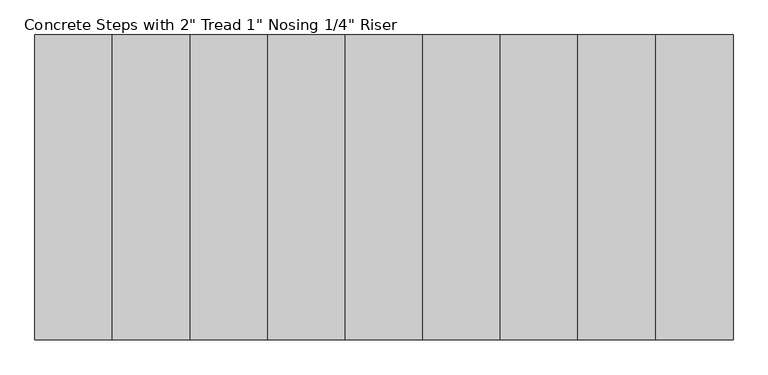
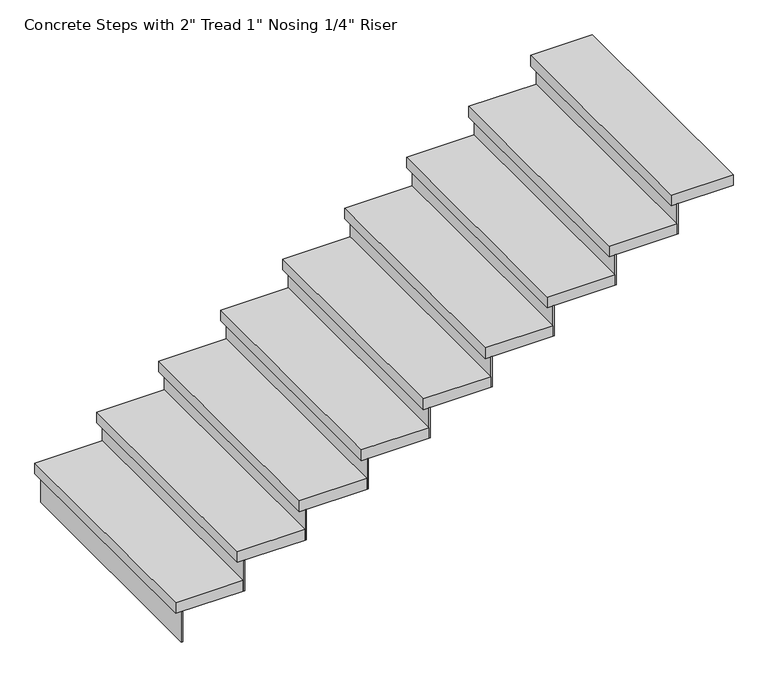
"""IFC4 building model written with IfcOpenShell, lengths in millimetres: stair flight geometry."""

from ifc_helpers import new_model, si_unit, frame, origin, place, context, project, spatial, polyline, outline, extrude, source, transform, mapped, element, save


def stair_flight_abbb2ed0(model_context):
    return source(origin(), model_context, "Body", "SweptSolid", [
        extrude(outline(polyline([(-9956.5313244, 8376.9937722), (-9962.8813244, 8376.9937722), (-9962.8813244, 9475.3913722), (-9956.5313244, 9475.3913722), (-9956.5313244, 8376.9937722)])), frame((0.0, 0.0, 1690.9142857), z_axis=(0.0, 0.0, 1.0), x_axis=(1.0, 0.0, 0.0)), (0.0, 0.0, 1.0), 145.1428571),
        extrude(outline(polyline([(-9683.4813244, 9475.3913722), (-9683.4813244, 8376.9937722), (-9988.2813244, 8376.9937722), (-9988.2813244, 9475.3913722), (-9683.4813244, 9475.3913722)])), frame((0.0, 0.0, 1836.0571429), z_axis=(0.0, 0.0, 1.0), x_axis=(1.0, 0.0, 0.0)), (0.0, 0.0, 1.0), 50.8),
        extrude(outline(polyline([(-9677.1313244, 8376.9937722), (-9683.4813244, 8376.9937722), (-9683.4813244, 9475.3913722), (-9677.1313244, 9475.3913722), (-9677.1313244, 8376.9937722)])), frame((0.0, 0.0, 1836.0571429), z_axis=(0.0, 0.0, 1.0), x_axis=(1.0, 0.0, 0.0)), (0.0, 0.0, 1.0), 145.1428571),
        extrude(outline(polyline([(-9404.0813244, 9475.3913722), (-9404.0813244, 8376.9937722), (-9708.8813244, 8376.9937722), (-9708.8813244, 9475.3913722), (-9404.0813244, 9475.3913722)])), frame((0.0, 0.0, 1981.2), z_axis=(0.0, 0.0, 1.0), x_axis=(1.0, 0.0, 0.0)), (0.0, 0.0, 1.0), 50.8),
        extrude(outline(polyline([(-9397.7313244, 8376.9937722), (-9404.0813244, 8376.9937722), (-9404.0813244, 9475.3913722), (-9397.7313244, 9475.3913722), (-9397.7313244, 8376.9937722)])), frame((0.0, 0.0, 1981.2), z_axis=(0.0, 0.0, 1.0), x_axis=(1.0, 0.0, 0.0)), (0.0, 0.0, 1.0), 145.1428571),
        extrude(outline(polyline([(-9124.6813244, 9475.3913722), (-9124.6813244, 8376.9937722), (-9429.4813244, 8376.9937722), (-9429.4813244, 9475.3913722), (-9124.6813244, 9475.3913722)])), frame((0.0, 0.0, 2126.3428571), z_axis=(0.0, 0.0, 1.0), x_axis=(1.0, 0.0, 0.0)), (0.0, 0.0, 1.0), 50.8),
        extrude(outline(polyline([(-9118.3313244, 8376.9937722), (-9124.6813244, 8376.9937722), (-9124.6813244, 9475.3913722), (-9118.3313244, 9475.3913722), (-9118.3313244, 8376.9937722)])), frame((0.0, 0.0, 2126.3428571), z_axis=(0.0, 0.0, 1.0), x_axis=(1.0, 0.0, 0.0)), (0.0, 0.0, 1.0), 145.1428571),
        extrude(outline(polyline([(-8845.2813244, 9475.3913722), (-8845.2813244, 8376.9937722), (-9150.0813244, 8376.9937722), (-9150.0813244, 9475.3913722), (-8845.2813244, 9475.3913722)])), frame((0.0, 0.0, 2271.4857143), z_axis=(0.0, 0.0, 1.0), x_axis=(1.0, 0.0, 0.0)), (0.0, 0.0, 1.0), 50.8),
        extrude(outline(polyline([(-8838.9313244, 8376.9937722), (-8845.2813244, 8376.9937722), (-8845.2813244, 9475.3913722), (-8838.9313244, 9475.3913722), (-8838.9313244, 8376.9937722)])), frame((0.0, 0.0, 2271.4857143), z_axis=(0.0, 0.0, 1.0), x_axis=(1.0, 0.0, 0.0)), (0.0, 0.0, 1.0), 145.1428571),
        extrude(outline(polyline([(-8565.8813244, 9475.3913722), (-8565.8813244, 8376.9937722), (-8870.6813244, 8376.9937722), (-8870.6813244, 9475.3913722), (-8565.8813244, 9475.3913722)])), frame((0.0, 0.0, 2416.6285714), z_axis=(0.0, 0.0, 1.0), x_axis=(1.0, 0.0, 0.0)), (0.0, 0.0, 1.0), 50.8),
        extrude(outline(polyline([(-8559.5313244, 8376.9937722), (-8565.8813244, 8376.9937722), (-8565.8813244, 9475.3913722), (-8559.5313244, 9475.3913722), (-8559.5313244, 8376.9937722)])), frame((0.0, 0.0, 2416.6285714), z_axis=(0.0, 0.0, 1.0), x_axis=(1.0, 0.0, 0.0)), (0.0, 0.0, 1.0), 145.1428571),
        extrude(outline(polyline([(-8286.4813244, 9475.3913722), (-8286.4813244, 8376.9937722), (-8591.2813244, 8376.9937722), (-8591.2813244, 9475.3913722), (-8286.4813244, 9475.3913722)])), frame((0.0, 0.0, 2561.7714286), z_axis=(0.0, 0.0, 1.0), x_axis=(1.0, 0.0, 0.0)), (0.0, 0.0, 1.0), 50.8),
        extrude(outline(polyline([(-8280.1313244, 8376.9937722), (-8286.4813244, 8376.9937722), (-8286.4813244, 9475.3913722), (-8280.1313244, 9475.3913722), (-8280.1313244, 8376.9937722)])), frame((0.0, 0.0, 2561.7714286), z_axis=(0.0, 0.0, 1.0), x_axis=(1.0, 0.0, 0.0)), (0.0, 0.0, 1.0), 145.1428571),
        extrude(outline(polyline([(-8007.0813244, 9475.3913722), (-8007.0813244, 8376.9937722), (-8311.8813244, 8376.9937722), (-8311.8813244, 9475.3913722), (-8007.0813244, 9475.3913722)])), frame((0.0, 0.0, 2706.9142857), z_axis=(0.0, 0.0, 1.0), x_axis=(1.0, 0.0, 0.0)), (0.0, 0.0, 1.0), 50.8),
        extrude(outline(polyline([(-8000.7313244, 8376.9937722), (-8007.0813244, 8376.9937722), (-8007.0813244, 9475.3913722), (-8000.7313244, 9475.3913722), (-8000.7313244, 8376.9937722)])), frame((0.0, 0.0, 2706.9142857), z_axis=(0.0, 0.0, 1.0), x_axis=(1.0, 0.0, 0.0)), (0.0, 0.0, 1.0), 145.1428571),
        extrude(outline(polyline([(-7727.6813244, 9475.3913722), (-7727.6813244, 8376.9937722), (-8032.4813244, 8376.9937722), (-8032.4813244, 9475.3913722), (-7727.6813244, 9475.3913722)])), frame((0.0, 0.0, 2852.0571429), z_axis=(0.0, 0.0, 1.0), x_axis=(1.0, 0.0, 0.0)), (0.0, 0.0, 1.0), 50.8),
        extrude(outline(polyline([(-7721.3313244, 8376.9937722), (-7727.6813244, 8376.9937722), (-7727.6813244, 9475.3913722), (-7721.3313244, 9475.3913722), (-7721.3313244, 8376.9937722)])), frame((0.0, 0.0, 2852.0571429), z_axis=(0.0, 0.0, 1.0), x_axis=(1.0, 0.0, 0.0)), (0.0, 0.0, 1.0), 145.1428571),
        extrude(outline(polyline([(-7473.6813244, 9475.3913722), (-7473.6813244, 8376.9937722), (-7753.0813244, 8376.9937722), (-7753.0813244, 9475.3913722), (-7473.6813244, 9475.3913722)])), frame((0.0, 0.0, 2997.2), z_axis=(0.0, 0.0, 1.0), x_axis=(1.0, 0.0, 0.0)), (0.0, 0.0, 1.0), 50.8),
    ])


if __name__ == "__main__":
    model = new_model("IFC4")
    model_context = context("Model", 3, world=origin())
    ifc_project = project(units=[si_unit("LENGTHUNIT", "METRE", prefix="MILLI")], contexts=[model_context])
    site = spatial("IfcSite", under=ifc_project)
    building = spatial("IfcBuilding", under=site)
    placement = place(None, origin())
    stair_flight_shape = stair_flight_abbb2ed0(model_context)
    element("IfcStairFlight", 1, ObjectType="Concrete Steps with 2\" Tread 1\" Nosing 1/4\" Riser", at=placement, inside=building, context=model_context, shape_type="MappedRepresentation", body=[
        mapped(stair_flight_shape, transform((0.0, 0.0, 0.0), x_axis=(1.0, 0.0, 0.0), y_axis=(0.0, 1.0, 0.0), z_axis=(0.0, 0.0, 1.0))),
    ])
    save(model, "model.ifc")
